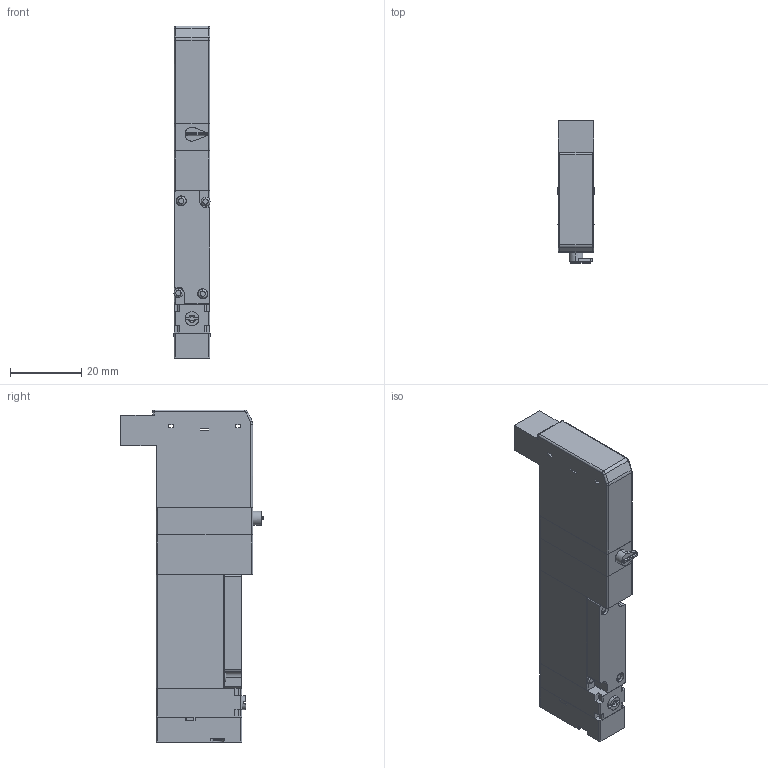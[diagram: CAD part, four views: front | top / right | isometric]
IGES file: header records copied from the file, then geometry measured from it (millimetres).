
Start section: ------------------------------------------------------------------------
Global section: file name: D:\ICADMX\tmp\trans3d_spg\CVICAD02.18204.F10T2-R-A1_8732.igs; native system: spGate; preprocessor: ver12.6.6; author: Unknown; organization: Unknown; date: 200901.142515; units: millimetre
Bounding box: 10.2 x 40 x 93 mm (x, y, z)
Volume: 24185.9 mm3; surface area: 11074.8 mm2
Topology: 7 solids, 7 shells, 235 faces, 590 edges, 378 vertices
Faces by surface type: bspline 235
